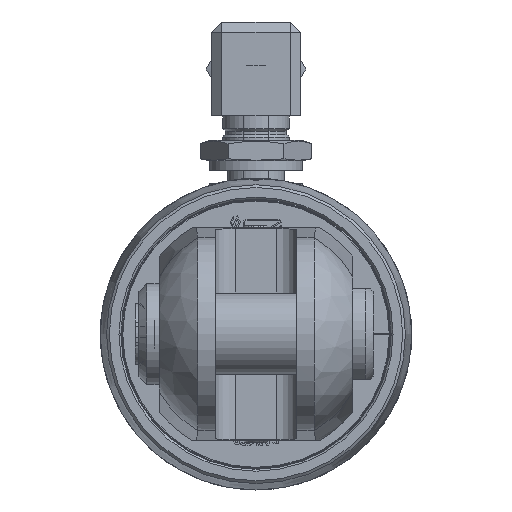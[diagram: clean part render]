
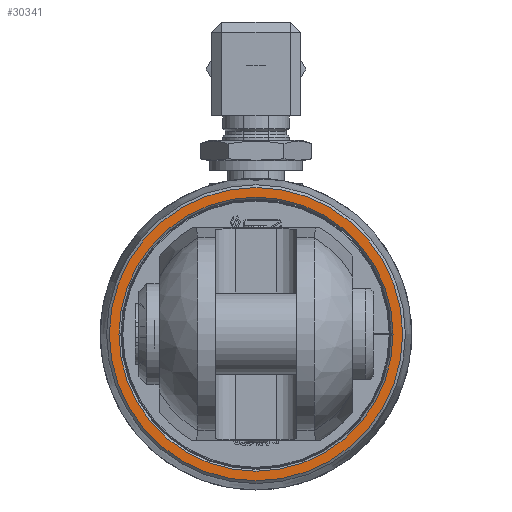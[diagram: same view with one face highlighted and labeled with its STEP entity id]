
A CAD part, left-side view. The second image highlights one B-rep face of the part: STEP entity #30341.
In plain terms, the highlighted planar face has unit normal (-1, 0, 0).
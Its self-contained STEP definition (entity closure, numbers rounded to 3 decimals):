
#386=FACE_BOUND('',#5551,.T.);
#3739=FACE_OUTER_BOUND('',#5550,.T.);
#5550=EDGE_LOOP('',(#26010));
#5551=EDGE_LOOP('',(#26011));
#11150=CIRCLE('',#31601,28.888);
#11152=CIRCLE('',#31605,27.);
#13868=VERTEX_POINT('',#55351);
#13870=VERTEX_POINT('',#55357);
#17944=EDGE_CURVE('',#13868,#13868,#11150,.T.);
#17946=EDGE_CURVE('',#13870,#13870,#11152,.T.);
#26010=ORIENTED_EDGE('',*,*,#17944,.F.);
#26011=ORIENTED_EDGE('',*,*,#17946,.F.);
#27185=PLANE('',#31604);
#30341=ADVANCED_FACE('',(#3739,#386),#27185,.F.);
#31601=AXIS2_PLACEMENT_3D('',#55352,#36639,#36640);
#31604=AXIS2_PLACEMENT_3D('',#55356,#36645,#36646);
#31605=AXIS2_PLACEMENT_3D('',#55358,#36647,#36648);
#36639=DIRECTION('center_axis',(1.,0.,0.));
#36640=DIRECTION('ref_axis',(0.,-1.,0.));
#36645=DIRECTION('center_axis',(1.,0.,0.));
#36646=DIRECTION('ref_axis',(0.,0.,-1.));
#36647=DIRECTION('center_axis',(-1.,0.,0.));
#36648=DIRECTION('ref_axis',(0.,-1.,0.));
#55351=CARTESIAN_POINT('',(-958.,28.888,0.));
#55352=CARTESIAN_POINT('Origin',(-958.,0.,0.));
#55356=CARTESIAN_POINT('Origin',(-958.,0.,0.));
#55357=CARTESIAN_POINT('',(-958.,27.,0.));
#55358=CARTESIAN_POINT('Origin',(-958.,0.,0.));
